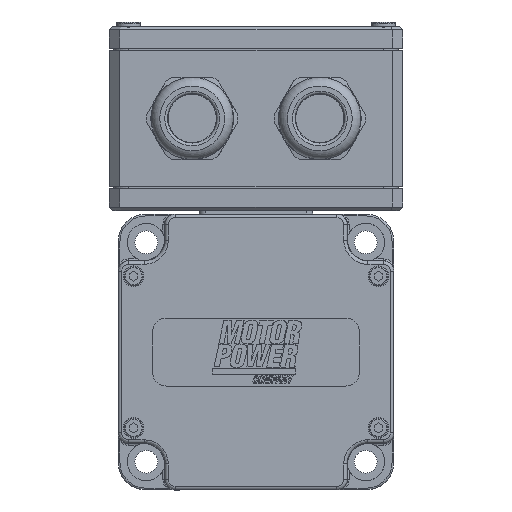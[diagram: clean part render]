
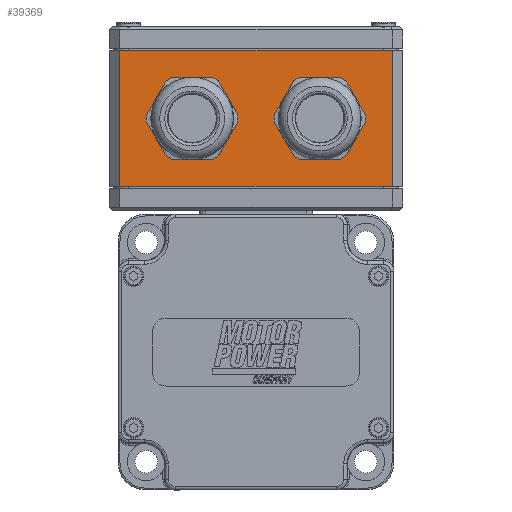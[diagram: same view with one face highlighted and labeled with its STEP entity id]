
A CAD part, front view. The second image highlights one B-rep face of the part: STEP entity #39369.
In plain terms, the highlighted planar face has unit normal (0, -1, 0) as drawn and (1, 0, 0) by its records, which use the part's own axes.
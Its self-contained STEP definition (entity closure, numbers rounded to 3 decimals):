
#2348=LINE('',#76324,#5572);
#2349=LINE('',#76327,#5573);
#2350=LINE('',#76329,#5574);
#2351=LINE('',#76331,#5575);
#5572=VECTOR('',#59709,1000.);
#5573=VECTOR('',#59710,1000.);
#5574=VECTOR('',#59711,1000.);
#5575=VECTOR('',#59712,1000.);
#8513=PLANE('',#53628);
#13741=ORIENTED_EDGE('',*,*,#23211,.T.);
#13742=ORIENTED_EDGE('',*,*,#23212,.T.);
#13743=ORIENTED_EDGE('',*,*,#23213,.T.);
#13744=ORIENTED_EDGE('',*,*,#23214,.T.);
#13745=ORIENTED_EDGE('',*,*,#23215,.F.);
#13746=ORIENTED_EDGE('',*,*,#23216,.T.);
#23211=EDGE_CURVE('',#28272,#28272,#31129,.F.);
#23212=EDGE_CURVE('',#28273,#28273,#31130,.F.);
#23213=EDGE_CURVE('',#28274,#28275,#2348,.T.);
#23214=EDGE_CURVE('',#28275,#28276,#2349,.T.);
#23215=EDGE_CURVE('',#28277,#28276,#2350,.T.);
#23216=EDGE_CURVE('',#28277,#28274,#2351,.T.);
#28272=VERTEX_POINT('',#76321);
#28273=VERTEX_POINT('',#76323);
#28274=VERTEX_POINT('',#76325);
#28275=VERTEX_POINT('',#76326);
#28276=VERTEX_POINT('',#76328);
#28277=VERTEX_POINT('',#76330);
#31129=CIRCLE('',#53629,10.625);
#31130=CIRCLE('',#53630,10.625);
#33306=EDGE_LOOP('',(#13741));
#33307=EDGE_LOOP('',(#13742));
#33308=EDGE_LOOP('',(#13743,#13744,#13745,#13746));
#36367=FACE_BOUND('',#33306,.T.);
#36368=FACE_BOUND('',#33307,.T.);
#36369=FACE_BOUND('',#33308,.T.);
#39369=ADVANCED_FACE('',(#36367,#36368,#36369),#8513,.F.);
#53628=AXIS2_PLACEMENT_3D('',#76319,#59703,#59704);
#53629=AXIS2_PLACEMENT_3D('',#76320,#59705,#59706);
#53630=AXIS2_PLACEMENT_3D('',#76322,#59707,#59708);
#59703=DIRECTION('',(-1.,0.,0.));
#59704=DIRECTION('',(0.,0.,1.));
#59705=DIRECTION('',(1.,0.,0.));
#59706=DIRECTION('',(0.,0.,-1.));
#59707=DIRECTION('',(1.,0.,0.));
#59708=DIRECTION('',(0.,0.,-1.));
#59709=DIRECTION('',(0.,1.,0.));
#59710=DIRECTION('',(0.,0.,1.));
#59711=DIRECTION('',(0.,1.,0.));
#59712=DIRECTION('',(0.,0.,-1.));
#76319=CARTESIAN_POINT('',(42.5,-42.5,39.5));
#76320=CARTESIAN_POINT('',(42.5,18.5,19.75));
#76321=CARTESIAN_POINT('',(42.5,18.5,9.125));
#76322=CARTESIAN_POINT('',(42.5,-18.5,19.75));
#76323=CARTESIAN_POINT('',(42.5,-18.5,9.125));
#76324=CARTESIAN_POINT('',(42.5,-42.5,0.));
#76325=CARTESIAN_POINT('',(42.5,-39.5,0.));
#76326=CARTESIAN_POINT('',(42.5,39.5,0.));
#76327=CARTESIAN_POINT('',(42.5,39.5,39.5));
#76328=CARTESIAN_POINT('',(42.5,39.5,39.5));
#76329=CARTESIAN_POINT('',(42.5,-42.5,39.5));
#76330=CARTESIAN_POINT('',(42.5,-39.5,39.5));
#76331=CARTESIAN_POINT('',(42.5,-39.5,39.5));
